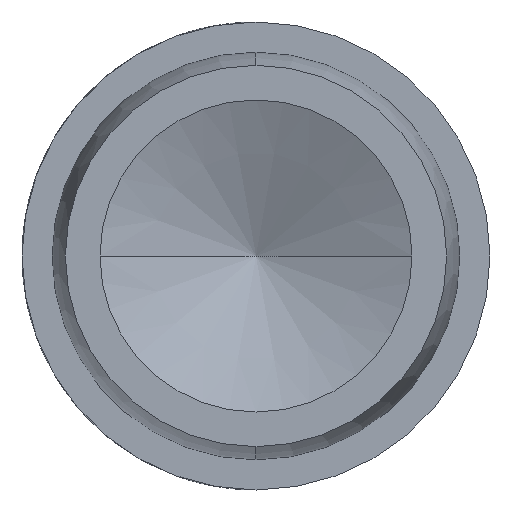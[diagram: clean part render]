
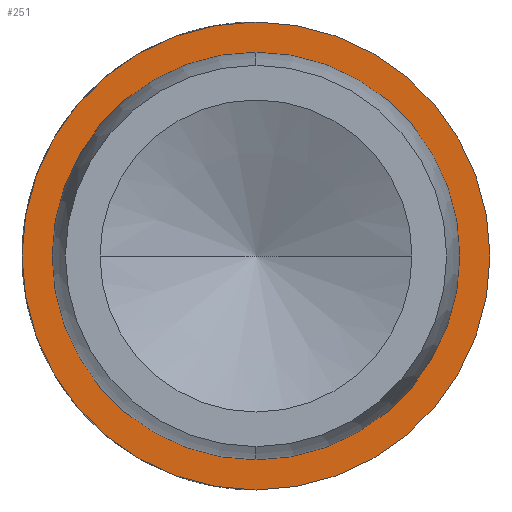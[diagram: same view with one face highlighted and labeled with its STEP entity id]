
A CAD part, left-side view. The second image highlights one B-rep face of the part: STEP entity #251.
In plain terms, the highlighted planar face has unit normal (-1, 0, 0).
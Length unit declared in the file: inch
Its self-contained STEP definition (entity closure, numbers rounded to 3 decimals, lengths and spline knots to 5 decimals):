
#7 = AXIS2_PLACEMENT_3D ( 'NONE', #240, #502, #300 ) ;
#9 = ORIENTED_EDGE ( 'NONE', *, *, #166, .F. ) ;
#25 = VERTEX_POINT ( 'NONE', #48 ) ;
#30 = CARTESIAN_POINT ( 'NONE',  ( 4.43829, 1.90634, -4.4218 ) ) ;
#32 = AXIS2_PLACEMENT_3D ( 'NONE', #248, #35, #637 ) ;
#35 = DIRECTION ( 'NONE',  ( -1., 0., 0. ) ) ;
#48 = CARTESIAN_POINT ( 'NONE',  ( 4.43829, 1.90634, -4.9843 ) ) ;
#77 = EDGE_CURVE ( 'NONE', #628, #25, #304, .T. ) ;
#89 = EDGE_CURVE ( 'NONE', #330, #634, #283, .T. ) ;
#93 = EDGE_LOOP ( 'NONE', ( #347, #9 ) ) ;
#131 = CARTESIAN_POINT ( 'NONE',  ( 4.43829, 1.90634, -4.9118 ) ) ;
#144 = EDGE_CURVE ( 'NONE', #25, #628, #260, .T. ) ;
#154 = DIRECTION ( 'NONE',  ( 0., 0., 1. ) ) ;
#166 = EDGE_CURVE ( 'NONE', #634, #330, #242, .T. ) ;
#191 = CARTESIAN_POINT ( 'NONE',  ( 4.43829, 1.90634, -3.9318 ) ) ;
#203 = FACE_OUTER_BOUND ( 'NONE', #623, .T. ) ;
#204 = FACE_BOUND ( 'NONE', #93, .T. ) ;
#232 = DIRECTION ( 'NONE',  ( -1., 0., 0. ) ) ;
#240 = CARTESIAN_POINT ( 'NONE',  ( 4.43829, 1.90634, -4.4218 ) ) ;
#242 = CIRCLE ( 'NONE', #565, 0.49 ) ;
#248 = CARTESIAN_POINT ( 'NONE',  ( 4.43829, 1.90634, -4.4218 ) ) ;
#251 = ADVANCED_FACE ( 'NONE', ( #204, #203 ), #416, .T. ) ;
#260 = CIRCLE ( 'NONE', #593, 0.5625 ) ;
#283 = CIRCLE ( 'NONE', #7, 0.49 ) ;
#300 = DIRECTION ( 'NONE',  ( 0., 0., 1. ) ) ;
#304 = CIRCLE ( 'NONE', #32, 0.5625 ) ;
#308 = CARTESIAN_POINT ( 'NONE',  ( 4.43829, 1.90634, -3.8593 ) ) ;
#330 = VERTEX_POINT ( 'NONE', #191 ) ;
#347 = ORIENTED_EDGE ( 'NONE', *, *, #89, .F. ) ;
#379 = ORIENTED_EDGE ( 'NONE', *, *, #144, .T. ) ;
#416 = PLANE ( 'NONE',  #692 ) ;
#435 = CARTESIAN_POINT ( 'NONE',  ( 4.43829, 1.90634, -4.9118 ) ) ;
#445 = DIRECTION ( 'NONE',  ( 0., 0., 1. ) ) ;
#472 = CARTESIAN_POINT ( 'NONE',  ( 4.43829, 1.90634, -4.4218 ) ) ;
#502 = DIRECTION ( 'NONE',  ( -1., 0., 0. ) ) ;
#505 = DIRECTION ( 'NONE',  ( -1., 0., 0. ) ) ;
#534 = DIRECTION ( 'NONE',  ( 0., 0., 1. ) ) ;
#565 = AXIS2_PLACEMENT_3D ( 'NONE', #30, #505, #534 ) ;
#593 = AXIS2_PLACEMENT_3D ( 'NONE', #472, #232, #445 ) ;
#623 = EDGE_LOOP ( 'NONE', ( #630, #379 ) ) ;
#628 = VERTEX_POINT ( 'NONE', #308 ) ;
#630 = ORIENTED_EDGE ( 'NONE', *, *, #77, .T. ) ;
#633 = DIRECTION ( 'NONE',  ( -1., 0., 0. ) ) ;
#634 = VERTEX_POINT ( 'NONE', #435 ) ;
#637 = DIRECTION ( 'NONE',  ( 0., 0., 1. ) ) ;
#692 = AXIS2_PLACEMENT_3D ( 'NONE', #131, #633, #154 ) ;
